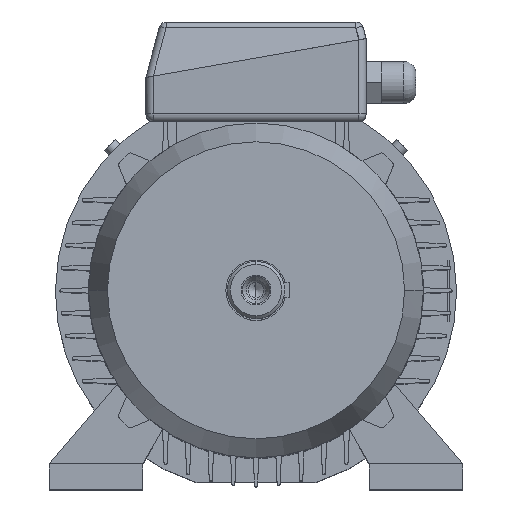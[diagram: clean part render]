
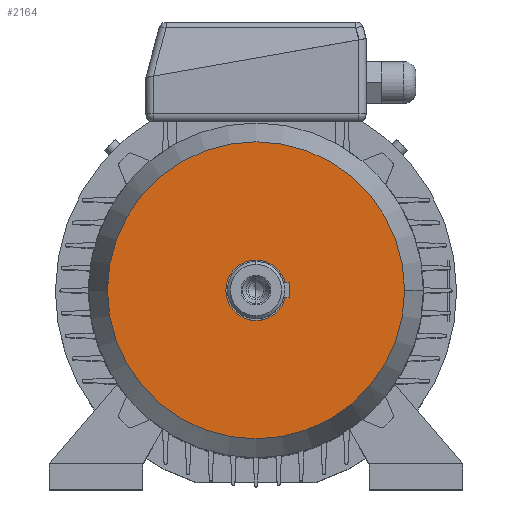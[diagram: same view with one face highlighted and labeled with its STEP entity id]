
A CAD part, top view. The second image highlights one B-rep face of the part: STEP entity #2164.
In plain terms, the highlighted planar face has unit normal (0, 0, 1).
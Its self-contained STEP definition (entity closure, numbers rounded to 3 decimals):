
#914 = ORIENTED_EDGE ( 'NONE', *, *, #3208, .F. ) ;
#1532 = VERTEX_POINT ( 'NONE', #4224 ) ;
#2164 = ADVANCED_FACE ( 'NONE', ( #4459 ), #4460, .T. ) ;
#3208 = EDGE_CURVE ( 'NONE', #1532, #9363, #5037, .T. ) ;
#4224 = CARTESIAN_POINT ( 'NONE',  ( -98.5, 0., 47. ) ) ;
#4459 = FACE_OUTER_BOUND ( 'NONE', #13196, .T. ) ;
#4460 = PLANE ( 'NONE',  #4461 ) ;
#4461 = AXIS2_PLACEMENT_3D ( 'NONE', #4462, #4463, #4464 ) ;
#4462 = CARTESIAN_POINT ( 'NONE',  ( 0., 98.5, 47. ) ) ;
#4463 = DIRECTION ( 'NONE',  ( 0., 0., 1. ) ) ;
#4464 = DIRECTION ( 'NONE',  ( 1., 0., 0. ) ) ;
#4836 = ORIENTED_EDGE ( 'NONE', *, *, #7189, .F. ) ;
#5037 = CIRCLE ( 'NONE', #5038, 98.5 ) ;
#5038 = AXIS2_PLACEMENT_3D ( 'NONE', #5039, #5040, #5041 ) ;
#5039 = CARTESIAN_POINT ( 'NONE',  ( 0., 0., 47. ) ) ;
#5040 = DIRECTION ( 'NONE',  ( 0., 0., -1. ) ) ;
#5041 = DIRECTION ( 'NONE',  ( -1., 0., 0. ) ) ;
#7189 = EDGE_CURVE ( 'NONE', #9363, #1532, #7880, .T. ) ;
#7880 = CIRCLE ( 'NONE', #7881, 98.5 ) ;
#7881 = AXIS2_PLACEMENT_3D ( 'NONE', #7882, #7883, #7884 ) ;
#7882 = CARTESIAN_POINT ( 'NONE',  ( 0., 0., 47. ) ) ;
#7883 = DIRECTION ( 'NONE',  ( 0., 0., -1. ) ) ;
#7884 = DIRECTION ( 'NONE',  ( -1., 0., 0. ) ) ;
#9363 = VERTEX_POINT ( 'NONE', #9442 ) ;
#9442 = CARTESIAN_POINT ( 'NONE',  ( 98.5, 0., 47. ) ) ;
#13196 = EDGE_LOOP ( 'NONE', ( #914, #4836 ) ) ;
